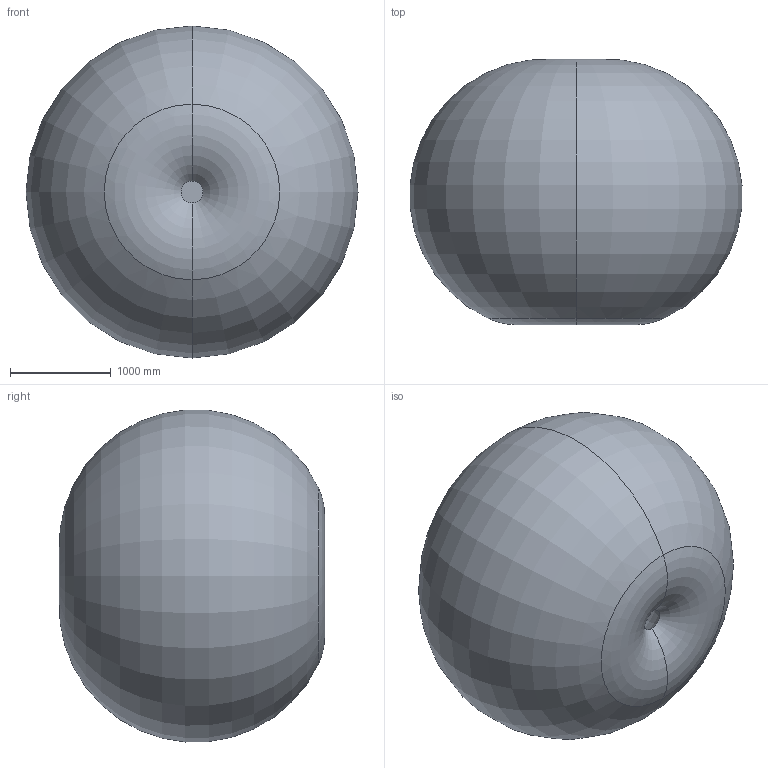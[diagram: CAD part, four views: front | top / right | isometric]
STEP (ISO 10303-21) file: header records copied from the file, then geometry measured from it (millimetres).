
FILE_DESCRIPTION (( 'STEP AP214' ), '1' );
FILE_NAME ('SMART NS 16-1.65 FOUNDRY_HAND_061019(3D-STEP).STEP', '2006-10-24T10:12:58', ( ' ' ), ( ' ' ), 'SwSTEP 2.0', 'SolidWorks 2005235', '' );
FILE_SCHEMA (( 'AUTOMOTIVE_DESIGN' ));
Length unit declared in the file: millimetre
Products named in the file (15): 82280814-040128; 82280819-040128; SMART NS 16-1.65 FOUNDRY_HAND_061019(3D-STEP); 82280804-040128; 82280805-040128; 82280809; 82280811-040128; Operation area SMART NS-16-1,65_Operation area SMART NS-16-1,65; 82309020-120902-SM; 82280801-040128; 82280823-060911; 82309030-180202-SM; 82309010-120902-SM; 82280824-041028; 82280822-060911
Assembly tree (17 placements, depth 2):
  SMART NS 16-1.65 FOUNDRY_HAND_061019(3D-STEP)
    82280805-040128
    82280824-041028
    82280814-040128
    82280823-060911
    82309010-120902-SM  x3
    82280811-040128
    82280809
    82309020-120902-SM  x2
    82309030-180202-SM
    82280804-040128
    82280801-040128
    82280819-040128
    Operation area SMART NS-16-1,65_Operation area SMART NS-16-1,65
    82280822-060911
Bounding box: 3294.75 x 2633.66 x 3294.75 mm (x, y, z)
Volume: 15761407988.4 mm3; surface area: 41665784.3 mm2
Topology: 17 solids, 17 shells, 2159 faces, 5810 edges, 3780 vertices
Faces by surface type: plane 1048, cylinder 796, bspline 137, cone 103, torus 69, sphere 6
Entity records: 87255 total; most frequent: CARTESIAN_POINT 32512, ORIENTED_EDGE 10562, DIRECTION 9997, EDGE_CURVE 5281, AXIS2_PLACEMENT_3D 3550, VERTEX_POINT 3458, VECTOR 2897, LINE 2897
